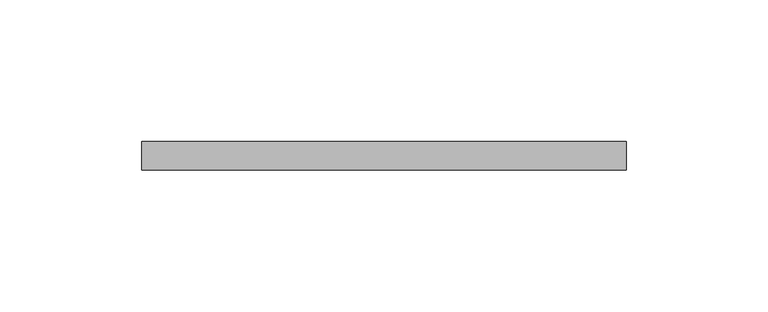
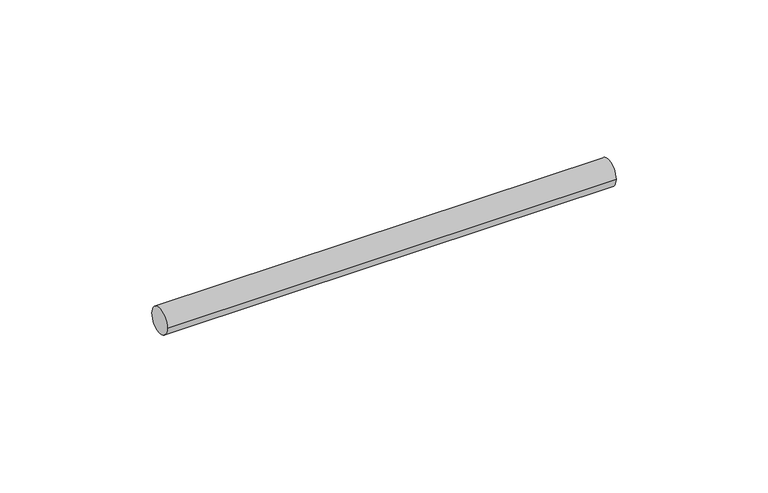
"""IFC4 building model written with IfcOpenShell, lengths in millimetres: valve geometry, Superfix Threaded Rod (used for clamps) : Threaded Rod - 1000 mm (used for clamps)."""

from ifc_helpers import new_model, si_unit, point, frame, origin, origin_2d, place, context, project, spatial, circle_curve, trimmed, segment, composite_curve, outline, extrude, source, transform, mapped, element, save


def valve_b67d411c(model_context):
    return source(origin(), model_context, "Body", "SweptSolid", [
        extrude(outline(composite_curve([segment(trimmed(circle_curve(origin_2d(), 5.0), [point((-5.0, 0.0))], [point((5.0, 0.0))], False, "CARTESIAN"), True, "CONTINUOUS"), segment(trimmed(circle_curve(origin_2d(), 5.0), [point((5.0, 0.0))], [point((-5.0, 0.0))], False, "CARTESIAN"), True, "CONTINUOUS")], self_intersect=False)), frame((-10.0, 0.0, 0.0), z_axis=(1.0, 0.0, 0.0), x_axis=(0.0, 1.0, 0.0)), (0.0, 0.0, 1.0), 170.5),
    ])


if __name__ == "__main__":
    model = new_model("IFC4")
    model_context = context("Model", 3, world=origin())
    ifc_project = project(units=[si_unit("LENGTHUNIT", "METRE", prefix="MILLI")], contexts=[model_context])
    site = spatial("IfcSite", under=ifc_project)
    building = spatial("IfcBuilding", under=site)
    placement = place(None, origin())
    valve_shape = valve_b67d411c(model_context)
    element("IfcValve", 1, ObjectType="Superfix Threaded Rod (used for clamps) : Threaded Rod - 1000 mm (used for clamps)", at=placement, inside=building, context=model_context, shape_type="MappedRepresentation", body=[
        mapped(valve_shape, transform((0.0, 0.0, 0.0), x_axis=(1.0, 0.0, 0.0), y_axis=(0.0, 1.0, 0.0), z_axis=(0.0, 0.0, 1.0))),
    ])
    save(model, "model.ifc")
